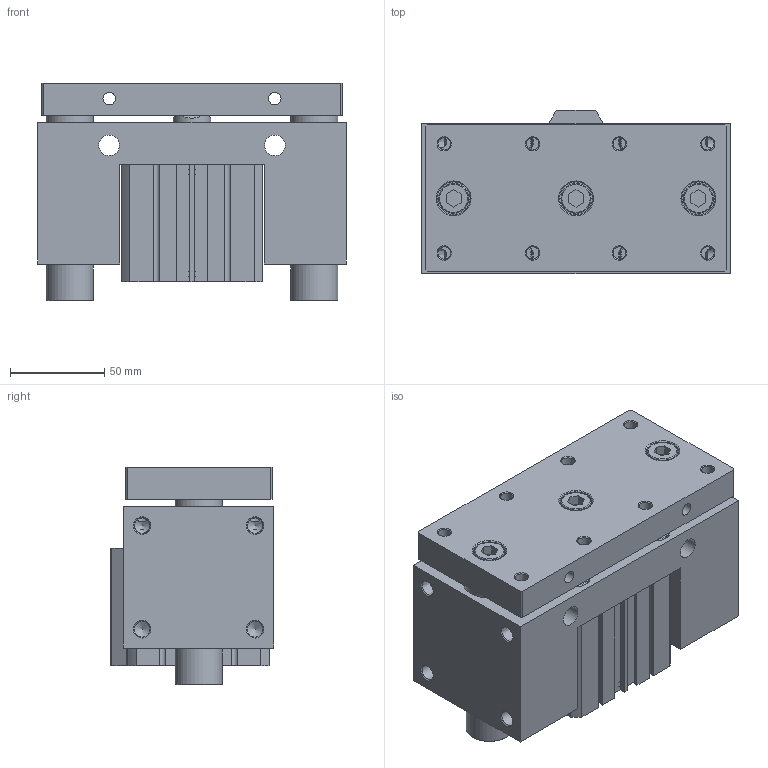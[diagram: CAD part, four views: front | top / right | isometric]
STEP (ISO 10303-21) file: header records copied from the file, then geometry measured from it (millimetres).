
FILE_DESCRIPTION((''),'2;1');
FILE_NAME('I:\3D電子目錄\氣缸\JCB\JCB\JCB63-S\JCB63x20-S.stp','2007-09-01T15:29:48',('Administrator'),(''),'Autodesk Inventor 11','Autodesk Inventor 11','');
FILE_SCHEMA(('AUTOMOTIVE_DESIGN { 1 0 10303 214 1 1 1 1 }'));
Length unit declared in the file: millimetre
Products named in the file (1): JCB63
Bounding box: 164 x 87 x 115.5 mm (x, y, z)
Volume: 1156351.4 mm3; surface area: 188730.6 mm2
Topology: 3 solids, 5 shells, 343 faces, 829 edges, 538 vertices
Faces by surface type: plane 186, cylinder 62, cone 47, bspline 40, torus 8
Full cylindrical faces by diameter (mm): 3 x2, 6.8 x4, 8.376 x4, 11 x8, 13 x4, 14 x4, 16 x3, 17.5 x3, 20 x1, 21 x1, 25 x2, 28 x2, 40 x1, 47 x1, 65 x4, 68 x2
Entity records: 10008 total; most frequent: CARTESIAN_POINT 2670, DIRECTION 1474, ORIENTED_EDGE 1320, EDGE_CURVE 660, EDGE_LOOP 554, AXIS2_PLACEMENT_3D 532, VERTEX_POINT 498, VECTOR 410
